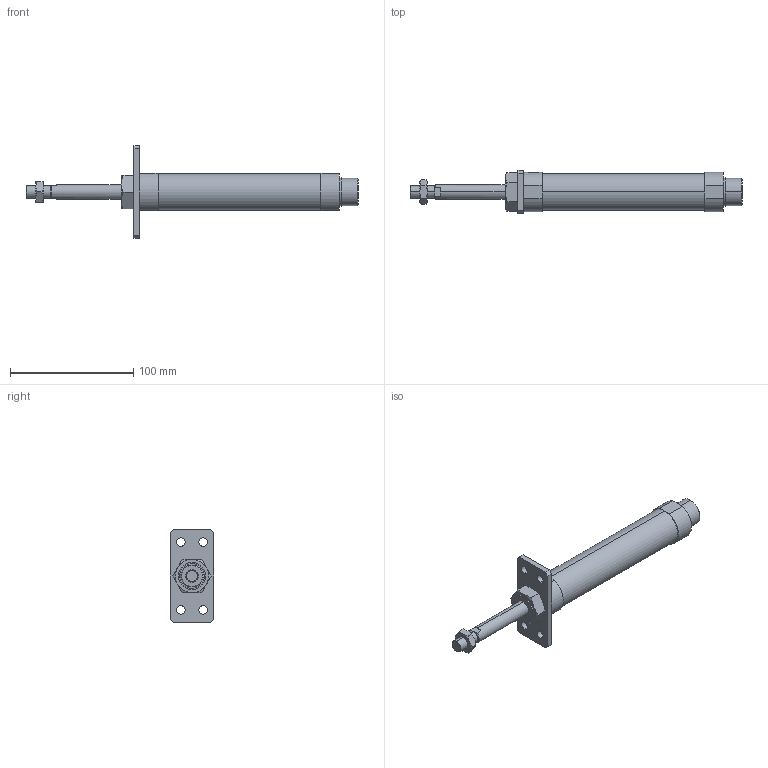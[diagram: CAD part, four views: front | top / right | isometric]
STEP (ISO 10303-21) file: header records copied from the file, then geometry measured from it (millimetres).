
FILE_DESCRIPTION (( 'STEP AP203' ), '1' );
FILE_NAME ('J#0-25-50-A.STEP', '2016-03-08T06:36:01', ( '' ), ( '' ), 'SwSTEP 2.0', 'SolidWorks 2014', '' );
FILE_SCHEMA (( 'CONFIG_CONTROL_DESIGN' ));
Length unit declared in the file: millimetre
Products named in the file (5): J#2-25-A; J#0-25-50; J#0-25-50-A
Assembly tree (4 placements, depth 2):
  J#0-25-50-A
    J#0-25-50
    (unnamed)
    (unnamed)
    J#2-25-A
Bounding box: 269 x 35 x 75 mm (x, y, z)
Volume: 148587.4 mm3; surface area: 31417.5 mm2
Topology: 4 solids, 4 shells, 113 faces, 258 edges, 157 vertices
Faces by surface type: plane 47, cylinder 34, torus 24, cone 8
Entity records: 3959 total; most frequent: CARTESIAN_POINT 907, DIRECTION 542, ORIENTED_EDGE 512, EDGE_CURVE 256, AXIS2_PLACEMENT_3D 220, VERTEX_POINT 157, EDGE_LOOP 133, FACE_OUTER_BOUND 113
